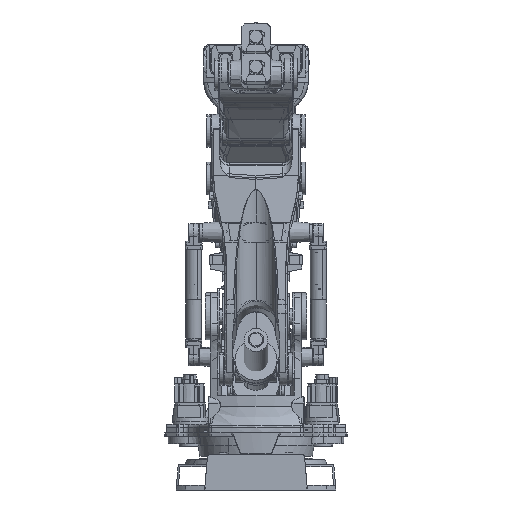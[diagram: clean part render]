
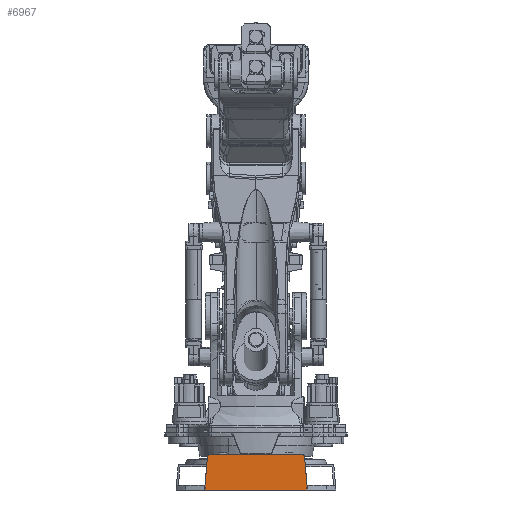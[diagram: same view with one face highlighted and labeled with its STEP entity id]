
A CAD part, front view. The second image highlights one B-rep face of the part: STEP entity #6967.
In plain terms, the highlighted planar face has unit normal (0, -1, 0).
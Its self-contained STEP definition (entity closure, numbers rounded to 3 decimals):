
#6705=CARTESIAN_POINT('Vertex',(366.836,-734.3,242.615)) ;
#6722=CARTESIAN_POINT('Vertex',(336.95,-734.3,270.)) ;
#6726=CARTESIAN_POINT('Control Point',(336.95,-734.3,270.)) ;
#6727=CARTESIAN_POINT('Control Point',(345.851,-734.3,270.)) ;
#6728=CARTESIAN_POINT('Control Point',(354.759,-734.3,266.707)) ;
#6729=CARTESIAN_POINT('Control Point',(362.003,-734.3,260.068)) ;
#6730=CARTESIAN_POINT('Control Point',(366.06,-734.3,251.482)) ;
#6731=CARTESIAN_POINT('Control Point',(366.836,-734.3,242.615)) ;
#6751=CARTESIAN_POINT('Vertex',(385.,-734.3,35.)) ;
#6759=CARTESIAN_POINT('Line Origine',(375.918,-734.3,138.807)) ;
#6870=CARTESIAN_POINT('Vertex',(-336.95,-734.3,270.)) ;
#6873=CARTESIAN_POINT('Line Origine',(0.,-734.3,270.)) ;
#6885=CARTESIAN_POINT('Axis2P3D Location',(0.,-734.3,0.)) ;
#6891=CARTESIAN_POINT('Control Point',(-366.836,-734.3,242.615)) ;
#6892=CARTESIAN_POINT('Control Point',(-366.579,-734.3,245.554)) ;
#6893=CARTESIAN_POINT('Control Point',(-365.961,-734.3,248.463)) ;
#6894=CARTESIAN_POINT('Control Point',(-364.986,-734.3,251.28)) ;
#6895=CARTESIAN_POINT('Control Point',(-362.362,-734.3,256.617)) ;
#6896=CARTESIAN_POINT('Control Point',(-358.523,-734.3,261.16)) ;
#6897=CARTESIAN_POINT('Control Point',(-356.332,-734.3,263.184)) ;
#6898=CARTESIAN_POINT('Control Point',(-351.499,-734.3,266.65)) ;
#6899=CARTESIAN_POINT('Control Point',(-345.97,-734.3,268.842)) ;
#6900=CARTESIAN_POINT('Control Point',(-343.085,-734.3,269.591)) ;
#6901=CARTESIAN_POINT('Control Point',(-340.089,-734.3,269.982)) ;
#6902=CARTESIAN_POINT('Control Point',(-337.092,-734.3,270.)) ;
#6903=CARTESIAN_POINT('Control Point',(-337.044,-734.3,270.)) ;
#6904=CARTESIAN_POINT('Control Point',(-336.997,-734.3,270.)) ;
#6905=CARTESIAN_POINT('Control Point',(-336.95,-734.3,270.)) ;
#6906=CARTESIAN_POINT('Vertex',(-366.836,-734.3,242.615)) ;
#6909=CARTESIAN_POINT('Line Origine',(-375.918,-734.3,138.807)) ;
#6913=CARTESIAN_POINT('Vertex',(-385.,-734.3,35.)) ;
#6916=CARTESIAN_POINT('Line Origine',(-384.832,-734.3,35.)) ;
#6920=CARTESIAN_POINT('Vertex',(-384.664,-734.3,35.)) ;
#6924=CARTESIAN_POINT('Control Point',(-384.567,-734.3,0.)) ;
#6925=CARTESIAN_POINT('Control Point',(-384.893,-734.3,6.995)) ;
#6926=CARTESIAN_POINT('Control Point',(-385.065,-734.3,13.996)) ;
#6927=CARTESIAN_POINT('Control Point',(-385.085,-734.3,21.001)) ;
#6928=CARTESIAN_POINT('Control Point',(-384.951,-734.3,28.004)) ;
#6929=CARTESIAN_POINT('Control Point',(-384.664,-734.3,35.)) ;
#6930=CARTESIAN_POINT('Vertex',(-384.567,-734.3,0.)) ;
#6933=CARTESIAN_POINT('Line Origine',(0.,-734.3,0.)) ;
#6937=CARTESIAN_POINT('Vertex',(384.567,-734.3,0.)) ;
#6941=CARTESIAN_POINT('Control Point',(384.664,-734.3,35.)) ;
#6942=CARTESIAN_POINT('Control Point',(384.951,-734.3,28.004)) ;
#6943=CARTESIAN_POINT('Control Point',(385.085,-734.3,21.001)) ;
#6944=CARTESIAN_POINT('Control Point',(385.065,-734.3,13.996)) ;
#6945=CARTESIAN_POINT('Control Point',(384.893,-734.3,6.995)) ;
#6946=CARTESIAN_POINT('Control Point',(384.567,-734.3,0.)) ;
#6947=CARTESIAN_POINT('Vertex',(384.664,-734.3,35.)) ;
#6950=CARTESIAN_POINT('Line Origine',(384.832,-734.3,35.)) ;
#6760=DIRECTION('Vector Direction',(0.087,0.,-0.996)) ;
#6874=DIRECTION('Vector Direction',(1.,0.,0.)) ;
#6886=DIRECTION('Axis2P3D Direction',(0.,-1.,0.)) ;
#6887=DIRECTION('Axis2P3D XDirection',(1.,0.,0.)) ;
#6910=DIRECTION('Vector Direction',(0.087,0.,0.996)) ;
#6917=DIRECTION('Vector Direction',(-1.,0.,0.)) ;
#6934=DIRECTION('Vector Direction',(-1.,0.,0.)) ;
#6951=DIRECTION('Vector Direction',(-1.,0.,0.)) ;
#6888=AXIS2_PLACEMENT_3D('Plane Axis2P3D',#6885,#6886,#6887) ;
#6956=ORIENTED_EDGE('',*,*,#6732,.T.) ;
#6957=ORIENTED_EDGE('',*,*,#6877,.T.) ;
#6958=ORIENTED_EDGE('',*,*,#6908,.T.) ;
#6959=ORIENTED_EDGE('',*,*,#6915,.T.) ;
#6960=ORIENTED_EDGE('',*,*,#6922,.T.) ;
#6961=ORIENTED_EDGE('',*,*,#6932,.T.) ;
#6962=ORIENTED_EDGE('',*,*,#6939,.T.) ;
#6963=ORIENTED_EDGE('',*,*,#6949,.T.) ;
#6964=ORIENTED_EDGE('',*,*,#6954,.T.) ;
#6965=ORIENTED_EDGE('',*,*,#6763,.T.) ;
#6761=VECTOR('Line Direction',#6760,1.) ;
#6875=VECTOR('Line Direction',#6874,1.) ;
#6911=VECTOR('Line Direction',#6910,1.) ;
#6918=VECTOR('Line Direction',#6917,1.) ;
#6935=VECTOR('Line Direction',#6934,1.) ;
#6952=VECTOR('Line Direction',#6951,1.) ;
#6967=ADVANCED_FACE('\X2\FF8EFF9EFF83FF9EFF68FF70\X0\.9',(#6966),#6889,.T.) ;
#6725=B_SPLINE_CURVE_WITH_KNOTS('',5,(#6726,#6727,#6728,#6729,#6730,#6731),.UNSPECIFIED.,.F.,.U.,(6,6),(0.,46.621),.UNSPECIFIED.) ;
#6890=B_SPLINE_CURVE_WITH_KNOTS('',5,(#6891,#6892,#6893,#6894,#6895,#6896,#6897,#6898,#6899,#6900,#6901,#6902,#6903,#6904,#6905),.UNSPECIFIED.,.F.,.U.,(6,3,3,3,6),(0.,21.367,42.745,64.112,64.453),.UNSPECIFIED.) ;
#6923=B_SPLINE_CURVE_WITH_KNOTS('',5,(#6924,#6925,#6926,#6927,#6928,#6929),.UNSPECIFIED.,.F.,.U.,(6,6),(0.,49.517),.UNSPECIFIED.) ;
#6940=B_SPLINE_CURVE_WITH_KNOTS('',5,(#6941,#6942,#6943,#6944,#6945,#6946),.UNSPECIFIED.,.F.,.U.,(6,6),(0.,49.517),.UNSPECIFIED.) ;
#6732=EDGE_CURVE('',#6706,#6723,#6725,.F.) ;
#6763=EDGE_CURVE('',#6752,#6706,#6762,.F.) ;
#6877=EDGE_CURVE('',#6723,#6871,#6876,.F.) ;
#6908=EDGE_CURVE('',#6871,#6907,#6890,.F.) ;
#6915=EDGE_CURVE('',#6907,#6914,#6912,.F.) ;
#6922=EDGE_CURVE('',#6914,#6921,#6919,.F.) ;
#6932=EDGE_CURVE('',#6921,#6931,#6923,.F.) ;
#6939=EDGE_CURVE('',#6931,#6938,#6936,.F.) ;
#6949=EDGE_CURVE('',#6938,#6948,#6940,.F.) ;
#6954=EDGE_CURVE('',#6948,#6752,#6953,.F.) ;
#6955=EDGE_LOOP('',(#6956,#6957,#6958,#6959,#6960,#6961,#6962,#6963,#6964,#6965)) ;
#6966=FACE_OUTER_BOUND('',#6955,.T.) ;
#6762=LINE('Line',#6759,#6761) ;
#6876=LINE('Line',#6873,#6875) ;
#6912=LINE('Line',#6909,#6911) ;
#6919=LINE('Line',#6916,#6918) ;
#6936=LINE('Line',#6933,#6935) ;
#6953=LINE('Line',#6950,#6952) ;
#6889=PLANE('',#6888) ;
#6706=VERTEX_POINT('',#6705) ;
#6723=VERTEX_POINT('',#6722) ;
#6752=VERTEX_POINT('',#6751) ;
#6871=VERTEX_POINT('',#6870) ;
#6907=VERTEX_POINT('',#6906) ;
#6914=VERTEX_POINT('',#6913) ;
#6921=VERTEX_POINT('',#6920) ;
#6931=VERTEX_POINT('',#6930) ;
#6938=VERTEX_POINT('',#6937) ;
#6948=VERTEX_POINT('',#6947) ;
